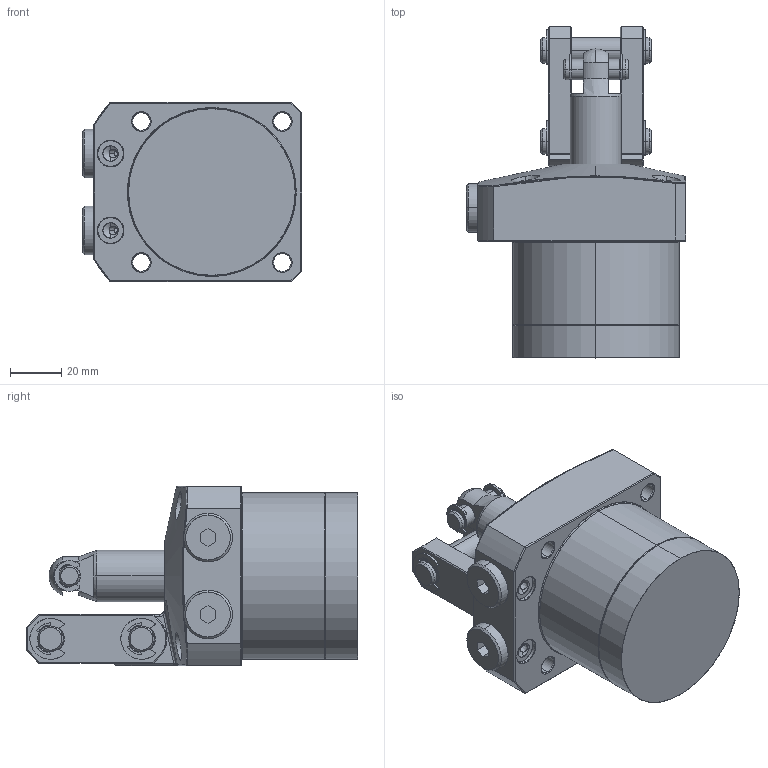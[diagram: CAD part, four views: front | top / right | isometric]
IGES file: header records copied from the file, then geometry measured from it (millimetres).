
Start section: SolidWorks IGES file using analytic representation for surfaces
Global section: file name: D:\abhilash\nijil\cylinder\LKA Series\con v lka\lk65\lk65cl\65CL PRT\0402-0653.IGS; native system: SolidWorks 2010; preprocessor: SolidWorks 2010; author: nidheesh; date: 130730.102652; units: millimetre
Bounding box: 85.5 x 129.5 x 70 mm (x, y, z)
Surface area: 48664.3 mm2 (no closed solid volume)
Topology: 0 solids, 0 shells, 397 faces, 5190 edges, 5189 vertices
Faces by surface type: bspline 216, revolution 181
